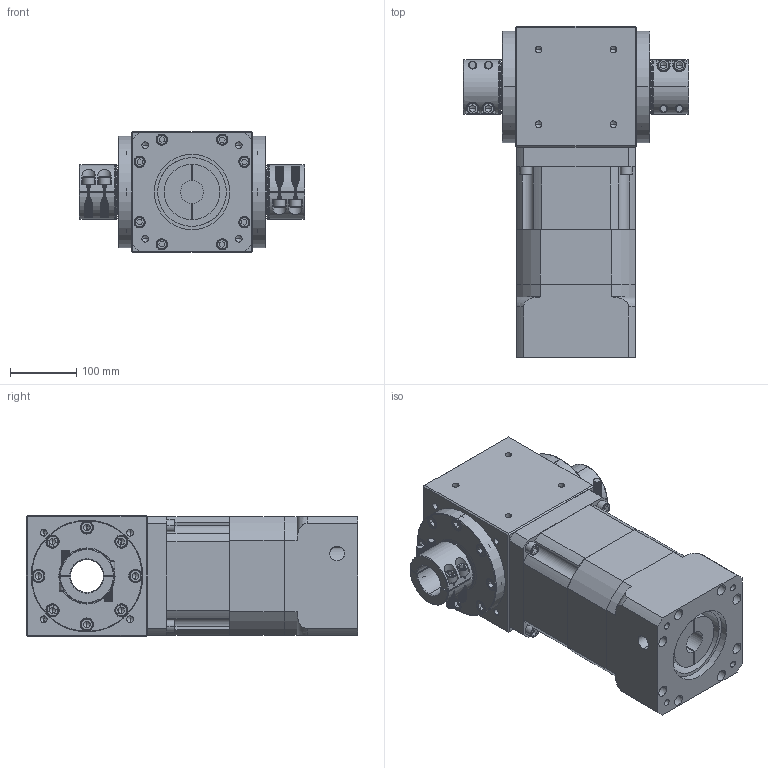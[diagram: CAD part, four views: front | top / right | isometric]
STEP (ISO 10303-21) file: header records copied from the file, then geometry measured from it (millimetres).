
FILE_DESCRIPTION (( 'STEP AP214' ), '1' );
FILE_NAME ('RAM180-L2-XX-D-35-114.3-200-M12_2019.STEP', '2019-04-10T09:52:01', ( 'Y' ), ( 'NCU' ), 'SwSTEP 2.0', 'SolidWorks 2016', '' );
FILE_SCHEMA (( 'AUTOMOTIVE_DESIGN' ));
Length unit declared in the file: millimetre
Products named in the file (1): RAM180-L2-XX-D-35-114.3-200-M12_2019
Bounding box: 341 x 501 x 183 mm (x, y, z)
Volume: 16165737.6 mm3; surface area: 1015571.8 mm2
Topology: 13 solids, 29 shells, 2473 faces, 5442 edges, 3068 vertices
Faces by surface type: cone 1070, cylinder 812, plane 521, torus 54, bspline 16
Entity records: 70868 total; most frequent: CARTESIAN_POINT 13968, DIRECTION 12648, ORIENTED_EDGE 10660, EDGE_CURVE 5330, AXIS2_PLACEMENT_3D 4932, VERTEX_POINT 3068, LINE 2784, VECTOR 2784
